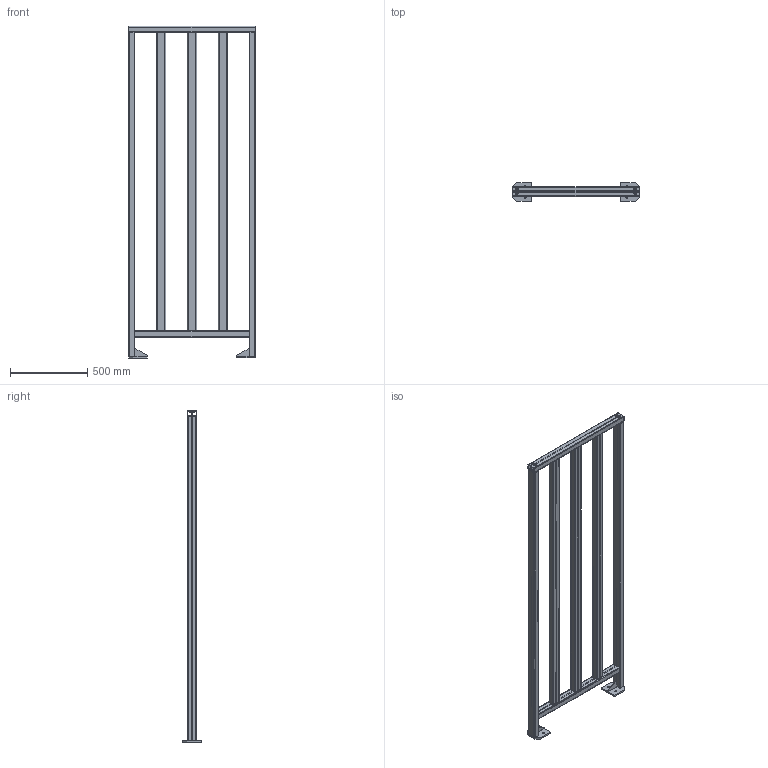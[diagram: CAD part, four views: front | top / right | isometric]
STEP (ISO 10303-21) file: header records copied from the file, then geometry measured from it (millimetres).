
FILE_DESCRIPTION(/* description */ ('Unknown'),/* implementation_level */ '2;1');
FILE_NAME(/* name */ 'МВ-15',/* time_stamp */ '2021-12-27T11:26:00+03:00',/* author */ ('Unknown'),/* organization */ ('Unknown'),/* preprocessor_version */ 'ST-DEVELOPER v18.1',/* originating_system */ 'Solid Edge',/* authorisation */ 'Unknown');
FILE_SCHEMA (('CONFIG_CONTROL_DESIGN'));
Length unit declared in the file: millimetre
Products named in the file (11): 斨-15; RTD-15.255.04-01 Áàëêà íèæíÿÿ; 斨-15.000.01-01 栺鍣罻; ÌÂ-15.000.03-02 Áàëêà âåðíÿÿ; 搪-15.000.04 青镱腠屙桢; RTD-15.255.06-01 Ïëàñòèíà êðåïåæíàÿ; ﾌﾂ-15.000.06 ﾐ裔; Çàêëåïêà_ðåçüáîâàÿ_Ì8_FTT.C_0,8...3,5_oa_0; Çàêëåïêà_ðåçüáîâàÿ_Ì8_FTT.C_0,8...3,5_oa_1; Çàêëåïêà_ðåçüáîâàÿ_Ì8_FTT.C_0,8...3,5_oa_2; Çàêëåïêà_ðåçüáîâàÿ_Ì8_FTT.C_0,8...3,5_oa_3
Assembly tree (15 placements, depth 2):
  斨-15
    RTD-15.255.04-01 Áàëêà íèæíÿÿ
    斨-15.000.01-01 栺鍣罻  x2
    ÌÂ-15.000.03-02 Áàëêà âåðíÿÿ
    搪-15.000.04 青镱腠屙桢  x3
    RTD-15.255.06-01 Ïëàñòèíà êðåïåæíàÿ  x2
    ﾌﾂ-15.000.06 ﾐ裔  x2
    Çàêëåïêà_ðåçüáîâàÿ_Ì8_FTT.C_0,8...3,5_oa_0
    Çàêëåïêà_ðåçüáîâàÿ_Ì8_FTT.C_0,8...3,5_oa_1
    Çàêëåïêà_ðåçüáîâàÿ_Ì8_FTT.C_0,8...3,5_oa_2
    Çàêëåïêà_ðåçüáîâàÿ_Ì8_FTT.C_0,8...3,5_oa_3
Bounding box: 820 x 120 x 2151.5 mm (x, y, z)
Volume: 7840136.9 mm3; surface area: 4951042.8 mm2
Topology: 15 solids, 15 shells, 308 faces, 804 edges, 526 vertices
Faces by surface type: plane 156, cylinder 128, cone 20, torus 4
Full cylindrical faces by diameter (mm): 3 x2, 6.647 x4, 9.5 x4, 10 x6, 10.9 x8, 11 x4, 13 x4, 15 x4
Entity records: 6843 total; most frequent: DIRECTION 1137, CARTESIAN_POINT 1028, ORIENTED_EDGE 934, EDGE_CURVE 467, AXIS2_PLACEMENT_3D 443, VERTEX_POINT 334, EDGE_LOOP 331, FACE_BOUND 331
